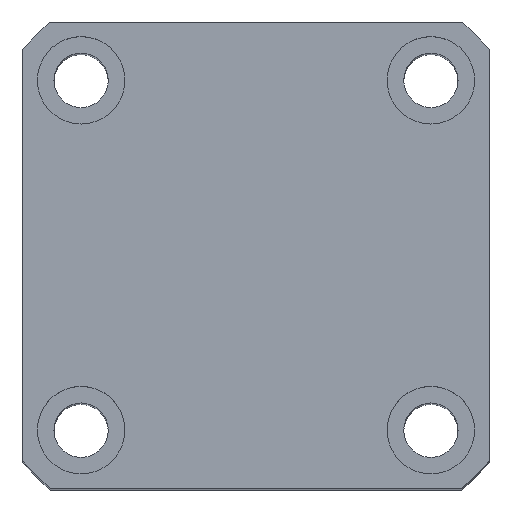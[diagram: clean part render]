
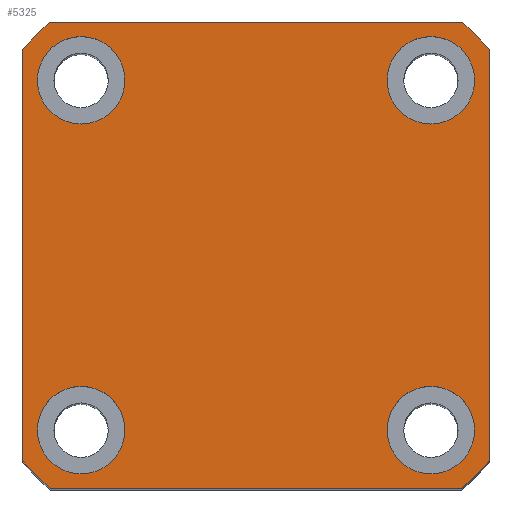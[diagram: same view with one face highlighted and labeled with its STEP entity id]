
A CAD part, top view. The second image highlights one B-rep face of the part: STEP entity #5325.
In plain terms, the highlighted planar face has unit normal (0, 0, 1) as drawn and (1, 0, 0) by its records, which use the part's own axes.
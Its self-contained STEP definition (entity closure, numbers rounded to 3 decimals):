
#41 = AXIS2_PLACEMENT_3D ( 'NONE', #6361, #2681, #6972 ) ;
#74 = CARTESIAN_POINT ( 'NONE',  ( 95., 0., 0. ) ) ;
#114 = DIRECTION ( 'NONE',  ( 1., 0., 0. ) ) ;
#192 = FACE_BOUND ( 'NONE', #3667, .T. ) ;
#228 = VERTEX_POINT ( 'NONE', #5613 ) ;
#238 = ORIENTED_EDGE ( 'NONE', *, *, #3862, .T. ) ;
#245 = LINE ( 'NONE', #387, #7834 ) ;
#249 = CIRCLE ( 'NONE', #3166, 4.5 ) ;
#387 = CARTESIAN_POINT ( 'NONE',  ( 95., 24., -24. ) ) ;
#454 = CARTESIAN_POINT ( 'NONE',  ( 95., -18., -18. ) ) ;
#523 = DIRECTION ( 'NONE',  ( 1., 0., 0. ) ) ;
#615 = ORIENTED_EDGE ( 'NONE', *, *, #1352, .T. ) ;
#620 = AXIS2_PLACEMENT_3D ( 'NONE', #74, #657, #6836 ) ;
#657 = DIRECTION ( 'NONE',  ( 1., 0., 0. ) ) ;
#666 = CARTESIAN_POINT ( 'NONE',  ( 95., -18., -13.5 ) ) ;
#770 = ORIENTED_EDGE ( 'NONE', *, *, #5088, .F. ) ;
#776 = EDGE_CURVE ( 'NONE', #6829, #3752, #6054, .T. ) ;
#784 = CIRCLE ( 'NONE', #4904, 4.5 ) ;
#1091 = DIRECTION ( 'NONE',  ( 0., 0., -1. ) ) ;
#1155 = CARTESIAN_POINT ( 'NONE',  ( 95., 18., 18. ) ) ;
#1231 = VERTEX_POINT ( 'NONE', #4185 ) ;
#1317 = CARTESIAN_POINT ( 'NONE',  ( 95., 0., 0. ) ) ;
#1328 = DIRECTION ( 'NONE',  ( 0., 0., 1. ) ) ;
#1347 = ORIENTED_EDGE ( 'NONE', *, *, #2715, .F. ) ;
#1352 = EDGE_CURVE ( 'NONE', #4313, #5901, #4429, .T. ) ;
#1409 = DIRECTION ( 'NONE',  ( 1., 0., 0. ) ) ;
#1529 = VERTEX_POINT ( 'NONE', #3774 ) ;
#1548 = CARTESIAN_POINT ( 'NONE',  ( 95., 18., -18. ) ) ;
#1599 = EDGE_CURVE ( 'NONE', #5137, #6497, #5482, .T. ) ;
#1629 = AXIS2_PLACEMENT_3D ( 'NONE', #1548, #5872, #2164 ) ;
#1777 = DIRECTION ( 'NONE',  ( 0., 0., -1. ) ) ;
#1839 = EDGE_CURVE ( 'NONE', #6115, #4621, #4705, .T. ) ;
#1940 = AXIS2_PLACEMENT_3D ( 'NONE', #1317, #5650, #1945 ) ;
#1945 = DIRECTION ( 'NONE',  ( 0., 0., -1. ) ) ;
#2043 = FACE_BOUND ( 'NONE', #4468, .T. ) ;
#2067 = CARTESIAN_POINT ( 'NONE',  ( 95., -21.166, -24. ) ) ;
#2072 = ORIENTED_EDGE ( 'NONE', *, *, #7926, .F. ) ;
#2123 = EDGE_CURVE ( 'NONE', #5901, #1231, #245, .T. ) ;
#2164 = DIRECTION ( 'NONE',  ( 0., 0., -1. ) ) ;
#2169 = EDGE_CURVE ( 'NONE', #3752, #6829, #4421, .T. ) ;
#2236 = VECTOR ( 'NONE', #4629, 1000. ) ;
#2249 = AXIS2_PLACEMENT_3D ( 'NONE', #5625, #114, #4472 ) ;
#2268 = ORIENTED_EDGE ( 'NONE', *, *, #2600, .T. ) ;
#2293 = CARTESIAN_POINT ( 'NONE',  ( 95., -18., 18. ) ) ;
#2338 = CARTESIAN_POINT ( 'NONE',  ( 95., -18., 13.5 ) ) ;
#2396 = AXIS2_PLACEMENT_3D ( 'NONE', #2293, #6611, #2937 ) ;
#2593 = VECTOR ( 'NONE', #1328, 1000. ) ;
#2600 = EDGE_CURVE ( 'NONE', #228, #5164, #7368, .T. ) ;
#2681 = DIRECTION ( 'NONE',  ( 1., 0., 0. ) ) ;
#2715 = EDGE_CURVE ( 'NONE', #6497, #5137, #5367, .T. ) ;
#2864 = CIRCLE ( 'NONE', #1629, 4.5 ) ;
#2928 = CARTESIAN_POINT ( 'NONE',  ( 95., 0., 0. ) ) ;
#2937 = DIRECTION ( 'NONE',  ( 0., 0., -1. ) ) ;
#3119 = DIRECTION ( 'NONE',  ( 0., -1., 0. ) ) ;
#3166 = AXIS2_PLACEMENT_3D ( 'NONE', #4256, #523, #4870 ) ;
#3308 = EDGE_LOOP ( 'NONE', ( #4748, #3473 ) ) ;
#3373 = CARTESIAN_POINT ( 'NONE',  ( 95., 24., 21.166 ) ) ;
#3423 = VERTEX_POINT ( 'NONE', #5644 ) ;
#3473 = ORIENTED_EDGE ( 'NONE', *, *, #2169, .F. ) ;
#3479 = ORIENTED_EDGE ( 'NONE', *, *, #1599, .F. ) ;
#3544 = AXIS2_PLACEMENT_3D ( 'NONE', #454, #4801, #1091 ) ;
#3549 = DIRECTION ( 'NONE',  ( 0., 0., -1. ) ) ;
#3566 = EDGE_CURVE ( 'NONE', #1529, #6154, #2864, .T. ) ;
#3639 = CARTESIAN_POINT ( 'NONE',  ( 95., 0., 0. ) ) ;
#3667 = EDGE_LOOP ( 'NONE', ( #770, #3988 ) ) ;
#3738 = CARTESIAN_POINT ( 'NONE',  ( 95., 21.166, 24. ) ) ;
#3752 = VERTEX_POINT ( 'NONE', #4149 ) ;
#3774 = CARTESIAN_POINT ( 'NONE',  ( 95., 18., -13.5 ) ) ;
#3861 = PLANE ( 'NONE',  #2249 ) ;
#3862 = EDGE_CURVE ( 'NONE', #7295, #6962, #6876, .T. ) ;
#3916 = LINE ( 'NONE', #4013, #2236 ) ;
#3988 = ORIENTED_EDGE ( 'NONE', *, *, #1839, .F. ) ;
#4013 = CARTESIAN_POINT ( 'NONE',  ( 95., -24., 24. ) ) ;
#4061 = ORIENTED_EDGE ( 'NONE', *, *, #3566, .F. ) ;
#4106 = EDGE_CURVE ( 'NONE', #5164, #4313, #3916, .T. ) ;
#4149 = CARTESIAN_POINT ( 'NONE',  ( 95., -18., 22.5 ) ) ;
#4185 = CARTESIAN_POINT ( 'NONE',  ( 95., 21.166, -24. ) ) ;
#4256 = CARTESIAN_POINT ( 'NONE',  ( 95., 18., -18. ) ) ;
#4259 = DIRECTION ( 'NONE',  ( 0., 0., -1. ) ) ;
#4262 = EDGE_CURVE ( 'NONE', #1231, #3423, #6773, .T. ) ;
#4313 = VERTEX_POINT ( 'NONE', #6011 ) ;
#4358 = CARTESIAN_POINT ( 'NONE',  ( 95., 24., 24. ) ) ;
#4421 = CIRCLE ( 'NONE', #2396, 4.5 ) ;
#4429 = CIRCLE ( 'NONE', #620, 32. ) ;
#4436 = LINE ( 'NONE', #7595, #2593 ) ;
#4437 = AXIS2_PLACEMENT_3D ( 'NONE', #5115, #1409, #5736 ) ;
#4468 = EDGE_LOOP ( 'NONE', ( #2072, #4061 ) ) ;
#4472 = DIRECTION ( 'NONE',  ( 0., 0., -1. ) ) ;
#4621 = VERTEX_POINT ( 'NONE', #6830 ) ;
#4629 = DIRECTION ( 'NONE',  ( 0., 0., -1. ) ) ;
#4705 = CIRCLE ( 'NONE', #41, 4.5 ) ;
#4736 = DIRECTION ( 'NONE',  ( 0., 1., 0. ) ) ;
#4748 = ORIENTED_EDGE ( 'NONE', *, *, #776, .F. ) ;
#4801 = DIRECTION ( 'NONE',  ( 1., 0., 0. ) ) ;
#4859 = ORIENTED_EDGE ( 'NONE', *, *, #7223, .T. ) ;
#4867 = CARTESIAN_POINT ( 'NONE',  ( 95., -18., -22.5 ) ) ;
#4870 = DIRECTION ( 'NONE',  ( 0., 0., -1. ) ) ;
#4904 = AXIS2_PLACEMENT_3D ( 'NONE', #1155, #5490, #1777 ) ;
#4947 = FACE_OUTER_BOUND ( 'NONE', #6434, .T. ) ;
#5088 = EDGE_CURVE ( 'NONE', #4621, #6115, #784, .T. ) ;
#5094 = ORIENTED_EDGE ( 'NONE', *, *, #4106, .T. ) ;
#5115 = CARTESIAN_POINT ( 'NONE',  ( 95., -18., -18. ) ) ;
#5137 = VERTEX_POINT ( 'NONE', #4867 ) ;
#5164 = VERTEX_POINT ( 'NONE', #6094 ) ;
#5211 = LINE ( 'NONE', #4358, #6828 ) ;
#5325 = ADVANCED_FACE ( 'NONE', ( #5523, #6566, #2043, #192, #4947 ), #3861, .T. ) ;
#5367 = CIRCLE ( 'NONE', #4437, 4.5 ) ;
#5396 = DIRECTION ( 'NONE',  ( 0., 0., -1. ) ) ;
#5460 = ORIENTED_EDGE ( 'NONE', *, *, #6980, .T. ) ;
#5482 = CIRCLE ( 'NONE', #3544, 4.5 ) ;
#5490 = DIRECTION ( 'NONE',  ( 1., 0., 0. ) ) ;
#5506 = DIRECTION ( 'NONE',  ( 1., 0., 0. ) ) ;
#5523 = FACE_BOUND ( 'NONE', #5881, .T. ) ;
#5537 = CARTESIAN_POINT ( 'NONE',  ( 95., -18., 18. ) ) ;
#5559 = AXIS2_PLACEMENT_3D ( 'NONE', #5537, #5506, #5396 ) ;
#5613 = CARTESIAN_POINT ( 'NONE',  ( 95., -21.166, 24. ) ) ;
#5624 = AXIS2_PLACEMENT_3D ( 'NONE', #2928, #7210, #3549 ) ;
#5625 = CARTESIAN_POINT ( 'NONE',  ( 95., 0., 0. ) ) ;
#5644 = CARTESIAN_POINT ( 'NONE',  ( 95., 24., -21.166 ) ) ;
#5650 = DIRECTION ( 'NONE',  ( 1., 0., 0. ) ) ;
#5736 = DIRECTION ( 'NONE',  ( 0., 0., -1. ) ) ;
#5872 = DIRECTION ( 'NONE',  ( 1., 0., 0. ) ) ;
#5881 = EDGE_LOOP ( 'NONE', ( #3479, #1347 ) ) ;
#5901 = VERTEX_POINT ( 'NONE', #2067 ) ;
#6011 = CARTESIAN_POINT ( 'NONE',  ( 95., -24., -21.166 ) ) ;
#6054 = CIRCLE ( 'NONE', #5559, 4.5 ) ;
#6094 = CARTESIAN_POINT ( 'NONE',  ( 95., -24., 21.166 ) ) ;
#6115 = VERTEX_POINT ( 'NONE', #7185 ) ;
#6154 = VERTEX_POINT ( 'NONE', #6633 ) ;
#6274 = ORIENTED_EDGE ( 'NONE', *, *, #2123, .T. ) ;
#6361 = CARTESIAN_POINT ( 'NONE',  ( 95., 18., 18. ) ) ;
#6434 = EDGE_LOOP ( 'NONE', ( #6274, #7611, #4859, #238, #5460, #2268, #5094, #615 ) ) ;
#6497 = VERTEX_POINT ( 'NONE', #666 ) ;
#6566 = FACE_BOUND ( 'NONE', #3308, .T. ) ;
#6591 = AXIS2_PLACEMENT_3D ( 'NONE', #3639, #7896, #4259 ) ;
#6611 = DIRECTION ( 'NONE',  ( 1., 0., 0. ) ) ;
#6633 = CARTESIAN_POINT ( 'NONE',  ( 95., 18., -22.5 ) ) ;
#6773 = CIRCLE ( 'NONE', #5624, 32. ) ;
#6828 = VECTOR ( 'NONE', #3119, 1000. ) ;
#6829 = VERTEX_POINT ( 'NONE', #2338 ) ;
#6830 = CARTESIAN_POINT ( 'NONE',  ( 95., 18., 13.5 ) ) ;
#6836 = DIRECTION ( 'NONE',  ( 0., 0., -1. ) ) ;
#6876 = CIRCLE ( 'NONE', #6591, 32. ) ;
#6962 = VERTEX_POINT ( 'NONE', #3738 ) ;
#6972 = DIRECTION ( 'NONE',  ( 0., 0., -1. ) ) ;
#6980 = EDGE_CURVE ( 'NONE', #6962, #228, #5211, .T. ) ;
#7185 = CARTESIAN_POINT ( 'NONE',  ( 95., 18., 22.5 ) ) ;
#7210 = DIRECTION ( 'NONE',  ( 1., 0., 0. ) ) ;
#7223 = EDGE_CURVE ( 'NONE', #3423, #7295, #4436, .T. ) ;
#7295 = VERTEX_POINT ( 'NONE', #3373 ) ;
#7368 = CIRCLE ( 'NONE', #1940, 32. ) ;
#7595 = CARTESIAN_POINT ( 'NONE',  ( 95., 24., 24. ) ) ;
#7611 = ORIENTED_EDGE ( 'NONE', *, *, #4262, .T. ) ;
#7834 = VECTOR ( 'NONE', #4736, 1000. ) ;
#7896 = DIRECTION ( 'NONE',  ( 1., 0., 0. ) ) ;
#7926 = EDGE_CURVE ( 'NONE', #6154, #1529, #249, .T. ) ;
